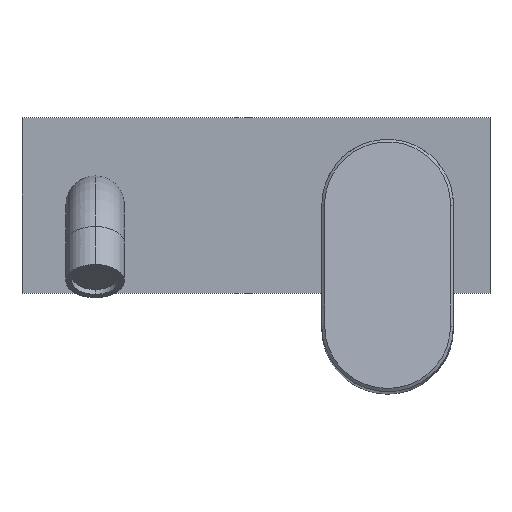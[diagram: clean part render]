
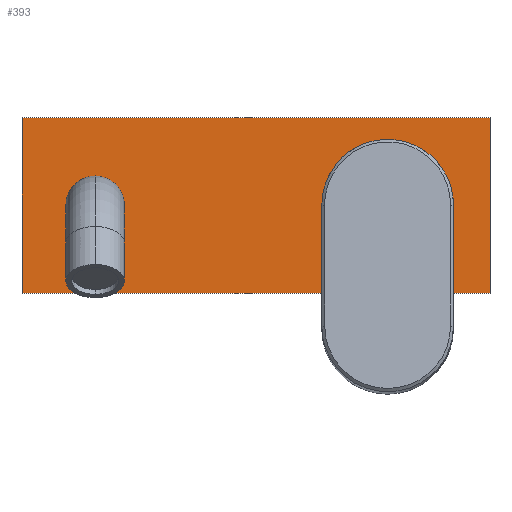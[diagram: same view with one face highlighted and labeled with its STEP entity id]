
A CAD part, top view. The second image highlights one B-rep face of the part: STEP entity #393.
In plain terms, the highlighted planar face has unit normal (0, 0, 1).
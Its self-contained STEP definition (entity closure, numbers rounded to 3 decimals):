
#2 = DIRECTION ( 'NONE',  ( 1., 0., 0. ) ) ;
#27 = VERTEX_POINT ( 'NONE', #956 ) ;
#48 = EDGE_CURVE ( 'NONE', #436, #2648, #1639, .T. ) ;
#95 = CARTESIAN_POINT ( 'NONE',  ( -80., 30., 8. ) ) ;
#122 = DIRECTION ( 'NONE',  ( 0., 0., 1. ) ) ;
#210 = ORIENTED_EDGE ( 'NONE', *, *, #687, .F. ) ;
#214 = CARTESIAN_POINT ( 'NONE',  ( -55., 0., 8. ) ) ;
#225 = DIRECTION ( 'NONE',  ( 1., 0., 0. ) ) ;
#273 = AXIS2_PLACEMENT_3D ( 'NONE', #1277, #779, #2119 ) ;
#356 = ORIENTED_EDGE ( 'NONE', *, *, #1435, .F. ) ;
#393 = ADVANCED_FACE ( 'NONE', ( #2181, #821, #614 ), #1185, .T. ) ;
#436 = VERTEX_POINT ( 'NONE', #1284 ) ;
#485 = CARTESIAN_POINT ( 'NONE',  ( 25., 0., 8. ) ) ;
#532 = CARTESIAN_POINT ( 'NONE',  ( 80., 30., 8. ) ) ;
#557 = EDGE_CURVE ( 'NONE', #1102, #27, #745, .T. ) ;
#614 = FACE_OUTER_BOUND ( 'NONE', #2587, .T. ) ;
#687 = EDGE_CURVE ( 'NONE', #2715, #2328, #2570, .T. ) ;
#745 = CIRCLE ( 'NONE', #2850, 10. ) ;
#765 = LINE ( 'NONE', #95, #2609 ) ;
#779 = DIRECTION ( 'NONE',  ( 0., 0., 1. ) ) ;
#805 = ORIENTED_EDGE ( 'NONE', *, *, #1415, .T. ) ;
#816 = DIRECTION ( 'NONE',  ( 0., -1., 0. ) ) ;
#821 = FACE_BOUND ( 'NONE', #1069, .T. ) ;
#831 = ORIENTED_EDGE ( 'NONE', *, *, #557, .F. ) ;
#899 = CARTESIAN_POINT ( 'NONE',  ( 45., 0., 8. ) ) ;
#940 = CIRCLE ( 'NONE', #273, 10. ) ;
#956 = CARTESIAN_POINT ( 'NONE',  ( -65., 0., 8. ) ) ;
#1031 = CARTESIAN_POINT ( 'NONE',  ( -80., 30., 8. ) ) ;
#1035 = CIRCLE ( 'NONE', #1656, 20. ) ;
#1069 = EDGE_LOOP ( 'NONE', ( #210, #1571 ) ) ;
#1102 = VERTEX_POINT ( 'NONE', #2474 ) ;
#1133 = CARTESIAN_POINT ( 'NONE',  ( 80., 30., 8. ) ) ;
#1158 = VERTEX_POINT ( 'NONE', #2238 ) ;
#1185 = PLANE ( 'NONE',  #2167 ) ;
#1246 = DIRECTION ( 'NONE',  ( 1., 0., 0. ) ) ;
#1268 = LINE ( 'NONE', #1031, #1601 ) ;
#1274 = VECTOR ( 'NONE', #1668, 1000. ) ;
#1277 = CARTESIAN_POINT ( 'NONE',  ( -55., 0., 8. ) ) ;
#1284 = CARTESIAN_POINT ( 'NONE',  ( -80., -30., 8. ) ) ;
#1307 = ORIENTED_EDGE ( 'NONE', *, *, #2425, .T. ) ;
#1415 = EDGE_CURVE ( 'NONE', #1718, #1158, #765, .T. ) ;
#1435 = EDGE_CURVE ( 'NONE', #27, #1102, #940, .T. ) ;
#1538 = DIRECTION ( 'NONE',  ( 0., 0., 1. ) ) ;
#1571 = ORIENTED_EDGE ( 'NONE', *, *, #1712, .F. ) ;
#1573 = CARTESIAN_POINT ( 'NONE',  ( 65., 0., 8. ) ) ;
#1588 = EDGE_LOOP ( 'NONE', ( #831, #356 ) ) ;
#1601 = VECTOR ( 'NONE', #816, 1000. ) ;
#1639 = LINE ( 'NONE', #2561, #2747 ) ;
#1656 = AXIS2_PLACEMENT_3D ( 'NONE', #2285, #2267, #225 ) ;
#1668 = DIRECTION ( 'NONE',  ( 0., 1., 0. ) ) ;
#1712 = EDGE_CURVE ( 'NONE', #2328, #2715, #1035, .T. ) ;
#1718 = VERTEX_POINT ( 'NONE', #1133 ) ;
#1887 = DIRECTION ( 'NONE',  ( 1., 0., 0. ) ) ;
#1902 = ORIENTED_EDGE ( 'NONE', *, *, #48, .T. ) ;
#1912 = DIRECTION ( 'NONE',  ( -1., 0., 0. ) ) ;
#2013 = DIRECTION ( 'NONE',  ( 1., 0., 0. ) ) ;
#2119 = DIRECTION ( 'NONE',  ( 1., 0., 0. ) ) ;
#2167 = AXIS2_PLACEMENT_3D ( 'NONE', #2794, #122, #1246 ) ;
#2181 = FACE_BOUND ( 'NONE', #1588, .T. ) ;
#2238 = CARTESIAN_POINT ( 'NONE',  ( -80., 30., 8. ) ) ;
#2267 = DIRECTION ( 'NONE',  ( 0., 0., 1. ) ) ;
#2268 = AXIS2_PLACEMENT_3D ( 'NONE', #899, #1538, #2 ) ;
#2285 = CARTESIAN_POINT ( 'NONE',  ( 45., 0., 8. ) ) ;
#2328 = VERTEX_POINT ( 'NONE', #1573 ) ;
#2425 = EDGE_CURVE ( 'NONE', #1158, #436, #1268, .T. ) ;
#2474 = CARTESIAN_POINT ( 'NONE',  ( -45., 0., 8. ) ) ;
#2494 = CARTESIAN_POINT ( 'NONE',  ( 80., -30., 8. ) ) ;
#2544 = ORIENTED_EDGE ( 'NONE', *, *, #2579, .T. ) ;
#2561 = CARTESIAN_POINT ( 'NONE',  ( -80., -30., 8. ) ) ;
#2570 = CIRCLE ( 'NONE', #2268, 20. ) ;
#2579 = EDGE_CURVE ( 'NONE', #2648, #1718, #2839, .T. ) ;
#2587 = EDGE_LOOP ( 'NONE', ( #1307, #1902, #2544, #805 ) ) ;
#2609 = VECTOR ( 'NONE', #1912, 1000. ) ;
#2648 = VERTEX_POINT ( 'NONE', #2494 ) ;
#2715 = VERTEX_POINT ( 'NONE', #485 ) ;
#2747 = VECTOR ( 'NONE', #1887, 1000. ) ;
#2794 = CARTESIAN_POINT ( 'NONE',  ( 0., 0., 8. ) ) ;
#2839 = LINE ( 'NONE', #532, #1274 ) ;
#2850 = AXIS2_PLACEMENT_3D ( 'NONE', #214, #2902, #2013 ) ;
#2902 = DIRECTION ( 'NONE',  ( 0., 0., 1. ) ) ;
